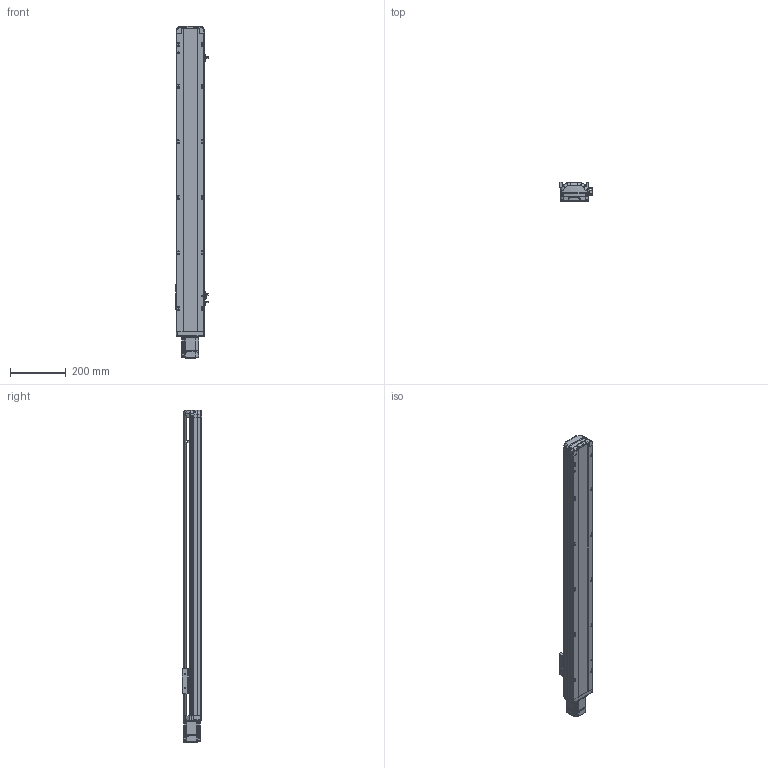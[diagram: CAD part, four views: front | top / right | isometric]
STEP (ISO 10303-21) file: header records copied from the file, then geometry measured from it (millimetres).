
FILE_DESCRIPTION (( 'STEP AP214' ), '1' );
FILE_NAME ('RTH10-XX-850-E-M20-C4.STEP', '2025-10-24T10:47:43', ( '' ), ( '' ), 'SwSTEP 2.0', 'SolidWorks 2018', '' );
FILE_SCHEMA (( 'AUTOMOTIVE_DESIGN' ));
Length unit declared in the file: millimetre
Products named in the file (9): N_RTH12-GY-004-滑座^RTH10-XX-XX-E-M20-C4（方程式）; N_200W-1^RTH10-XX-XX-E-M20-C4（方程式）; N_RTH13-L-012感应片外置^RTH10-XX-XX-E-M20-C4（方程式）; N_RTH12-E-008-M20电机板^RTH10-XX-XX-E-M20-C4（方程式）; RTH10-XX-850-E-M20-C4; N_OMRON EE-SX672 換覜ん^RTH10-XX-XX-E-M20-C4ㄗ源最宒ㄘ; N_RTH12-E-007P-奻裔^RTH10-XX-XX-E-M20-C4ㄗ源最宒ㄘ; N_RTH12-GY-001P^RTH10-XX-XX-E-M20-C4（方程式）; N_RTH12-E-011P-臏倰第菁釱^RTH10-XX-XX-E-M20-C4ㄗ源最宒ㄘ
Assembly tree (10 placements, depth 2):
  RTH10-XX-850-E-M20-C4
    N_RTH12-E-011P-臏倰第菁釱^RTH10-XX-XX-E-M20-C4ㄗ源最宒ㄘ
    N_RTH13-L-012感应片外置^RTH10-XX-XX-E-M20-C4（方程式）
    N_OMRON EE-SX672 換覜ん^RTH10-XX-XX-E-M20-C4ㄗ源最宒ㄘ  x3
    N_RTH12-E-007P-奻裔^RTH10-XX-XX-E-M20-C4ㄗ源最宒ㄘ
    N_RTH12-GY-001P^RTH10-XX-XX-E-M20-C4（方程式）
    N_RTH12-GY-004-滑座^RTH10-XX-XX-E-M20-C4（方程式）
    N_200W-1^RTH10-XX-XX-E-M20-C4（方程式）
    N_RTH12-E-008-M20电机板^RTH10-XX-XX-E-M20-C4（方程式）
Bounding box: 116.5 x 70 x 1195.31 mm (x, y, z)
Volume: 4535959.8 mm3; surface area: 700047.9 mm2
Topology: 9 solids, 11 shells, 2028 faces, 5650 edges, 3710 vertices
Faces by surface type: plane 1012, cylinder 509, bspline 472, cone 33, torus 2
Entity records: 61252 total; most frequent: CARTESIAN_POINT 23746, ORIENTED_EDGE 8380, DIRECTION 6546, EDGE_CURVE 4196, VERTEX_POINT 2754, LINE 2254, VECTOR 2254, AXIS2_PLACEMENT_3D 2146
